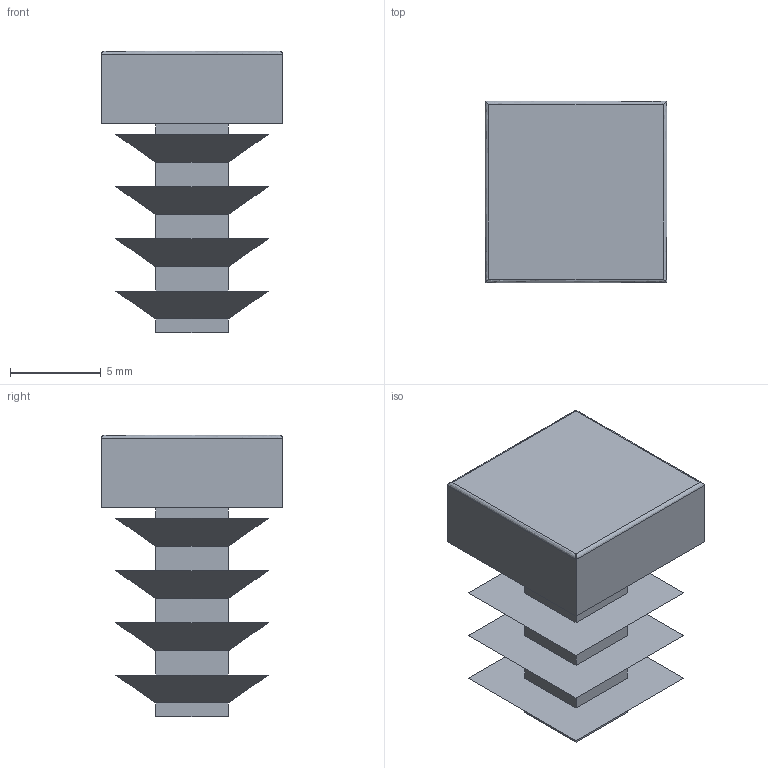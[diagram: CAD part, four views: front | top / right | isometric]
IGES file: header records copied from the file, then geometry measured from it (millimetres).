
Start section: SolidWorks IGES file using analytic representation for surfaces
Global section: file name: X:\11_SW2020-Inv2020\00_全2021-11新製品まで\p\PEC-Q10-GR\pec-q10-gr.IGS; native system: SolidWorks 2020; preprocessor: SolidWorks 2020; author: ImaoCorp; date: 211026.135047; units: millimetre
Bounding box: 10 x 10 x 15.5 mm (x, y, z)
Surface area: 926.6 mm2 (no closed solid volume)
Topology: 0 solids, 0 shells, 51 faces, 248 edges, 248 vertices
Faces by surface type: bspline 47, revolution 4
